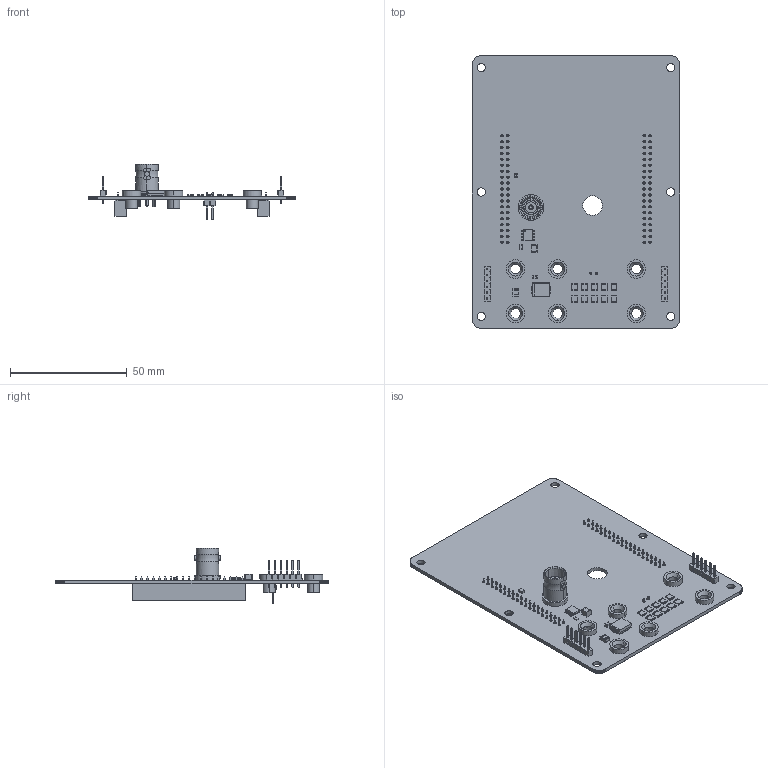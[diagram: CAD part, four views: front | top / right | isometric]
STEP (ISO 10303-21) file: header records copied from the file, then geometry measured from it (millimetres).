
FILE_DESCRIPTION(('KiCad electronic assembly'),'2;1');
FILE_NAME('lsa_mot-gen.step','2023-07-10T08:46:31',('Pcbnew'),('Kicad'), 'Open CASCADE STEP processor 7.5','KiCad to STEP converter','Unknown' );
FILE_SCHEMA(('AUTOMOTIVE_DESIGN { 1 0 10303 214 1 1 1 1 }'));
Length unit declared in the file: millimetre
Products named in the file (26): lsa_mot-gen 1; R_1210_3225Metric; SOLID; 575-4; PinHeader_1x06_P2.54mm_Vertical; 112404; COMPOUND; C_0805_2012Metric; Fuse_1210_3225Metric; R_0805_2012Metric; C_1210_3225Metric; Texas_HTSOP-8-1EP_3.9x4.9mm_P1.27mm_EP2.85x4.9mm_Mask2.4x3.1mm_
ThermalVias; D_SMC; PinSocket_2x19_P2.54mm_Vertical; PinHeader_1x02_P2.54mm_Vertical; lsa_mot-gen PCB
Assembly tree (42 placements, depth 3):
  lsa_mot-gen 1
    R_1210_3225Metric  x10
      SOLID
    575-4  x6
      SOLID
    PinHeader_1x06_P2.54mm_Vertical  x2
      SOLID
    112404
      COMPOUND
    C_0805_2012Metric  x2
      SOLID
    Fuse_1210_3225Metric
      SOLID
    R_0805_2012Metric
      SOLID
    C_1210_3225Metric
      SOLID
    Texas_HTSOP-8-1EP_3.9x4.9mm_P1.27mm_EP2.85x4.9mm_Mask2.4x3.1mm_
ThermalVias
      SOLID
    D_SMC
      SOLID
    PinSocket_2x19_P2.54mm_Vertical  x2
      SOLID
    PinHeader_1x02_P2.54mm_Vertical
      SOLID
    lsa_mot-gen PCB
Bounding box: 88.9 x 116.84 x 23.94 mm (x, y, z)
Volume: 20252.7 mm3; surface area: 29863.8 mm2
Topology: 29 solids, 35 shells, 3640 faces, 9379 edges, 6075 vertices
Faces by surface type: plane 3223, cylinder 343, bspline 42, cone 30, torus 2
Full cylindrical faces by diameter (mm): 0.2 x1, 0.33 x6, 1 x90, 1.27 x1, 1.524 x4, 3.5 x6, 5.3 x6, 8.4 x1
Entity records: 142486 total; most frequent: CARTESIAN_POINT 25360, DIRECTION 19363, LINE 14266, VECTOR 14266, ORIENTED_EDGE 10278, PCURVE 10278, DEFINITIONAL_REPRESENTATION 10278, EDGE_CURVE 5165
